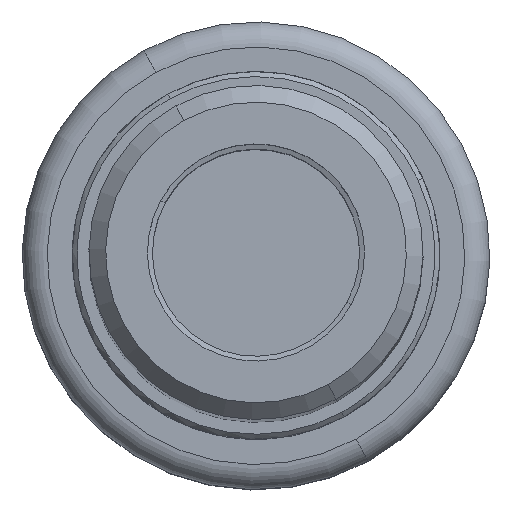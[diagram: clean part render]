
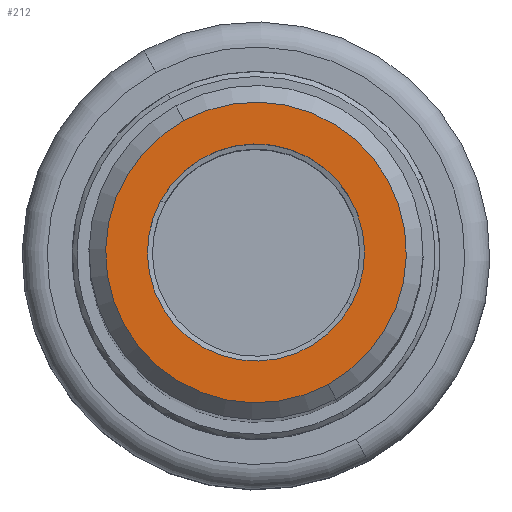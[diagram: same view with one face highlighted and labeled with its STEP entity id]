
A CAD part, top view. The second image highlights one B-rep face of the part: STEP entity #212.
In plain terms, the highlighted planar face has unit normal (0, 0, 1).
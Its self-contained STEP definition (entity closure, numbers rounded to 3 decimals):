
#156=AXIS2_PLACEMENT_3D('Circle Axis2P3D',#154,#155,$) ;
#175=AXIS2_PLACEMENT_3D('Circle Axis2P3D',#173,#174,$) ;
#188=AXIS2_PLACEMENT_3D('Plane Axis2P3D',#185,#186,#187) ;
#192=AXIS2_PLACEMENT_3D('Circle Axis2P3D',#190,#191,$) ;
#201=AXIS2_PLACEMENT_3D('Circle Axis2P3D',#199,#200,$) ;
#151=CARTESIAN_POINT('Vertex',(5.704,-3.116,0.)) ;
#154=CARTESIAN_POINT('Axis2P3D Location',(0.,0.,0.)) ;
#158=CARTESIAN_POINT('Vertex',(-5.704,3.116,0.)) ;
#173=CARTESIAN_POINT('Axis2P3D Location',(0.,0.,0.)) ;
#185=CARTESIAN_POINT('Axis2P3D Location',(0.,0.,0.)) ;
#190=CARTESIAN_POINT('Axis2P3D Location',(0.,0.,0.)) ;
#194=CARTESIAN_POINT('Vertex',(-4.315,7.898,0.)) ;
#196=CARTESIAN_POINT('Vertex',(4.315,-7.898,0.)) ;
#199=CARTESIAN_POINT('Axis2P3D Location',(0.,0.,0.)) ;
#155=DIRECTION('Axis2P3D Direction',(0.,0.,-1.)) ;
#174=DIRECTION('Axis2P3D Direction',(0.,0.,-1.)) ;
#186=DIRECTION('Axis2P3D Direction',(0.,0.,-1.)) ;
#187=DIRECTION('Axis2P3D XDirection',(1.,0.,0.)) ;
#191=DIRECTION('Axis2P3D Direction',(0.,0.,-1.)) ;
#200=DIRECTION('Axis2P3D Direction',(0.,0.,-1.)) ;
#205=ORIENTED_EDGE('',*,*,#198,.T.) ;
#206=ORIENTED_EDGE('',*,*,#203,.T.) ;
#209=ORIENTED_EDGE('',*,*,#177,.T.) ;
#210=ORIENTED_EDGE('',*,*,#160,.T.) ;
#211=FACE_BOUND('',#208,.T.) ;
#212=ADVANCED_FACE('NOCUT',(#207,#211),#189,.F.) ;
#157=CIRCLE('generated circle',#156,6.5) ;
#176=CIRCLE('generated circle',#175,6.5) ;
#193=CIRCLE('generated circle',#192,9.) ;
#202=CIRCLE('generated circle',#201,9.) ;
#160=EDGE_CURVE('',#159,#152,#157,.T.) ;
#177=EDGE_CURVE('',#152,#159,#176,.T.) ;
#198=EDGE_CURVE('',#195,#197,#193,.F.) ;
#203=EDGE_CURVE('',#197,#195,#202,.F.) ;
#204=EDGE_LOOP('',(#205,#206)) ;
#208=EDGE_LOOP('',(#209,#210)) ;
#207=FACE_OUTER_BOUND('',#204,.T.) ;
#189=PLANE('',#188) ;
#152=VERTEX_POINT('',#151) ;
#159=VERTEX_POINT('',#158) ;
#195=VERTEX_POINT('',#194) ;
#197=VERTEX_POINT('',#196) ;
